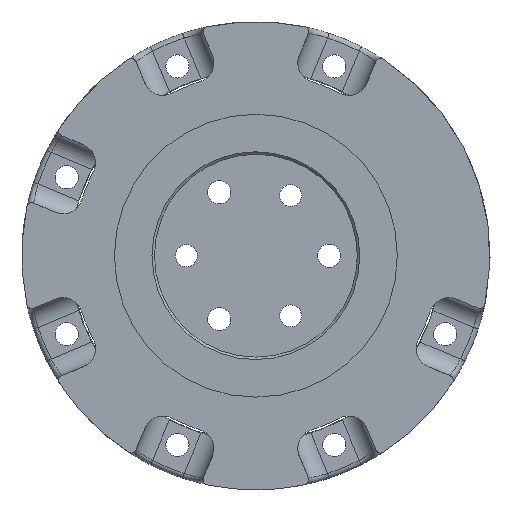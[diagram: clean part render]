
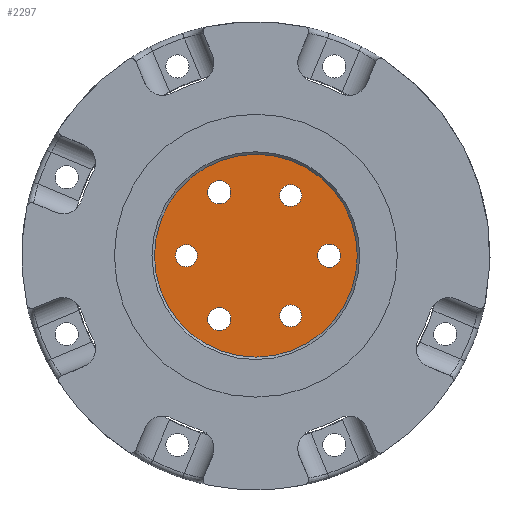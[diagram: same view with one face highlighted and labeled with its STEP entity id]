
A CAD part, front view. The second image highlights one B-rep face of the part: STEP entity #2297.
In plain terms, the highlighted planar face has unit normal (0, -1, 0).
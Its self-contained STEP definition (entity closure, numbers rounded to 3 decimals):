
#49=FACE_BOUND('',#284,.T.);
#50=FACE_BOUND('',#285,.T.);
#51=FACE_BOUND('',#286,.T.);
#52=FACE_BOUND('',#287,.T.);
#53=FACE_BOUND('',#288,.T.);
#54=FACE_BOUND('',#289,.T.);
#71=PLANE('',#2472);
#153=FACE_OUTER_BOUND('',#283,.T.);
#283=EDGE_LOOP('',(#1588));
#284=EDGE_LOOP('',(#1589));
#285=EDGE_LOOP('',(#1590));
#286=EDGE_LOOP('',(#1591));
#287=EDGE_LOOP('',(#1592));
#288=EDGE_LOOP('',(#1593));
#289=EDGE_LOOP('',(#1594));
#765=CIRCLE('',#2473,20.8);
#766=CIRCLE('',#2474,2.375);
#767=CIRCLE('',#2475,2.375);
#768=CIRCLE('',#2476,2.375);
#769=CIRCLE('',#2477,2.25);
#770=CIRCLE('',#2478,2.25);
#771=CIRCLE('',#2479,2.25);
#961=VERTEX_POINT('',#4759);
#962=VERTEX_POINT('',#4761);
#963=VERTEX_POINT('',#4763);
#964=VERTEX_POINT('',#4765);
#965=VERTEX_POINT('',#4767);
#966=VERTEX_POINT('',#4769);
#967=VERTEX_POINT('',#4771);
#1204=EDGE_CURVE('',#961,#961,#765,.T.);
#1205=EDGE_CURVE('',#962,#962,#766,.T.);
#1206=EDGE_CURVE('',#963,#963,#767,.T.);
#1207=EDGE_CURVE('',#964,#964,#768,.T.);
#1208=EDGE_CURVE('',#965,#965,#769,.F.);
#1209=EDGE_CURVE('',#966,#966,#770,.F.);
#1210=EDGE_CURVE('',#967,#967,#771,.F.);
#1588=ORIENTED_EDGE('',*,*,#1204,.F.);
#1589=ORIENTED_EDGE('',*,*,#1205,.T.);
#1590=ORIENTED_EDGE('',*,*,#1206,.T.);
#1591=ORIENTED_EDGE('',*,*,#1207,.T.);
#1592=ORIENTED_EDGE('',*,*,#1208,.F.);
#1593=ORIENTED_EDGE('',*,*,#1209,.F.);
#1594=ORIENTED_EDGE('',*,*,#1210,.F.);
#2297=ADVANCED_FACE('',(#153,#49,#50,#51,#52,#53,#54),#71,.F.);
#2472=AXIS2_PLACEMENT_3D('',#4758,#2824,#2825);
#2473=AXIS2_PLACEMENT_3D('',#4760,#2826,#2827);
#2474=AXIS2_PLACEMENT_3D('',#4762,#2828,#2829);
#2475=AXIS2_PLACEMENT_3D('',#4764,#2830,#2831);
#2476=AXIS2_PLACEMENT_3D('',#4766,#2832,#2833);
#2477=AXIS2_PLACEMENT_3D('',#4768,#2834,#2835);
#2478=AXIS2_PLACEMENT_3D('',#4770,#2836,#2837);
#2479=AXIS2_PLACEMENT_3D('',#4772,#2838,#2839);
#2824=DIRECTION('center_axis',(0.,1.,0.));
#2825=DIRECTION('ref_axis',(0.,0.,1.));
#2826=DIRECTION('center_axis',(0.,1.,0.));
#2827=DIRECTION('ref_axis',(0.,0.,1.));
#2828=DIRECTION('center_axis',(0.,1.,0.));
#2829=DIRECTION('ref_axis',(0.,0.,1.));
#2830=DIRECTION('center_axis',(0.,1.,0.));
#2831=DIRECTION('ref_axis',(0.,0.,1.));
#2832=DIRECTION('center_axis',(0.,1.,0.));
#2833=DIRECTION('ref_axis',(0.,0.,1.));
#2834=DIRECTION('center_axis',(0.,1.,0.));
#2835=DIRECTION('ref_axis',(0.,0.,1.));
#2836=DIRECTION('center_axis',(0.,1.,0.));
#2837=DIRECTION('ref_axis',(0.,0.,1.));
#2838=DIRECTION('center_axis',(0.,1.,0.));
#2839=DIRECTION('ref_axis',(0.,0.,1.));
#4758=CARTESIAN_POINT('Origin',(0.,0.5,20.8));
#4759=CARTESIAN_POINT('',(0.,0.5,20.8));
#4760=CARTESIAN_POINT('Origin',(0.,0.5,0.));
#4761=CARTESIAN_POINT('',(15.,0.5,-2.375));
#4762=CARTESIAN_POINT('Origin',(15.,0.5,0.));
#4763=CARTESIAN_POINT('',(-7.5,0.5,10.615));
#4764=CARTESIAN_POINT('Origin',(-7.5,0.5,12.99));
#4765=CARTESIAN_POINT('',(-7.5,0.5,-15.365));
#4766=CARTESIAN_POINT('Origin',(-7.5,0.5,-12.99));
#4767=CARTESIAN_POINT('',(-14.25,0.5,-2.25));
#4768=CARTESIAN_POINT('Origin',(-14.25,0.5,0.));
#4769=CARTESIAN_POINT('',(7.125,0.5,10.091));
#4770=CARTESIAN_POINT('Origin',(7.125,0.5,12.341));
#4771=CARTESIAN_POINT('',(7.125,0.5,-14.591));
#4772=CARTESIAN_POINT('Origin',(7.125,0.5,-12.341));
